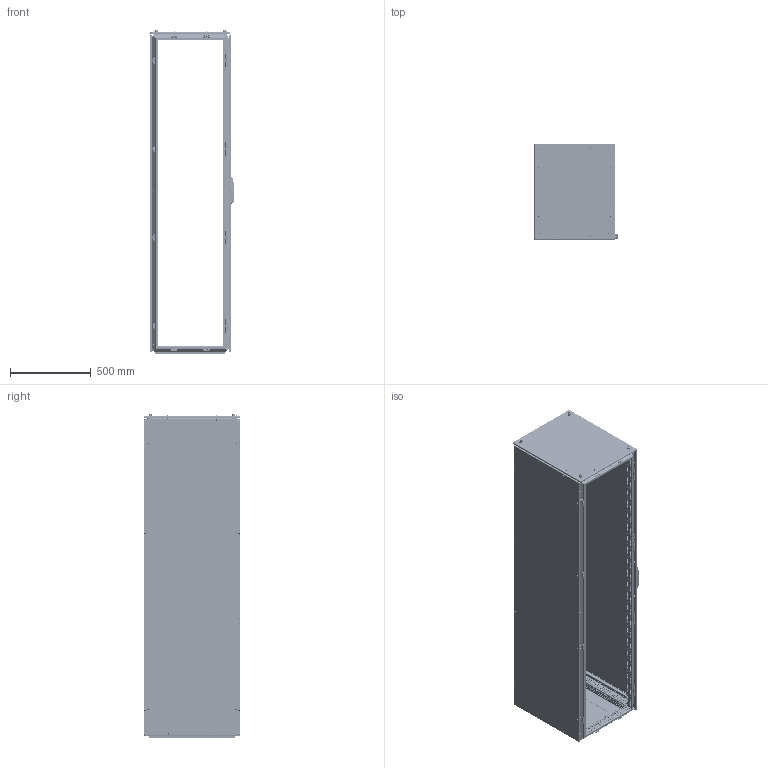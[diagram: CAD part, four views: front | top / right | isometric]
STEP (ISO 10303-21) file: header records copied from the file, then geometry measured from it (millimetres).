
FILE_DESCRIPTION(('STEP AP203'), '1');
FILE_NAME('ØÍÑ ÊÑ PRO II Êîðïóñ ÑÁ', '', ('UNSPECIFIED'), ('UNSPECIFIED'), 'C3D Converter', 'C3D Toolkit', '');
FILE_SCHEMA(('CONFIG_CONTROL_DESIGN'));
Length unit declared in the file: millimetre
Products named in the file (49): 3110.200.60.50; 3000; 3007.75; 3007.200; 3009.04; 3009.04.01; 3009.04.2; 3009.04.01.2; 3301; 3310; 3311; 3302; 3211; 3410; 3420; 3421; 3422.01; 3412; 3411; 2952; 3009.05; 3009.05.01; 3622.01; 3009.08; 3009.08.01
Assembly tree (292 placements, depth 5):
  3110.200.60.50
    3000
      3000
      (unnamed)  x88
      3007.75  x2
      (unnamed)  x8
      3007.200
      3009.04  x8
        3009.04.01
        (unnamed)
        (unnamed)
      3009.04.2  x14
        3009.04.01.2
        (unnamed)
        (unnamed)
    3301
      3310
        3311
        (unnamed)
      (unnamed)  x8
      (unnamed)  x8
      (unnamed)  x4
      (unnamed)  x4
    3302
      3211
      (unnamed)  x2
      (unnamed)  x12
    3410
      3420
        3421
        3422.01  x4
        (unnamed)  x14
        (unnamed)  x8
        (unnamed)  x2
      3412  x2
      3411  x2
      (unnamed)  x4
      (unnamed)  x14
      (unnamed)  x22
      (unnamed)  x8
      2952
        (unnamed)
          (unnamed)
          (unnamed)
          (unnamed)
          (unnamed)
          (unnamed)
      (unnamed)  x2
      3009.05  x4
        3009.05.01
        (unnamed)
        (unnamed)
      3622.01  x4
      (unnamed)  x4
      3009.08  x4
        3009.08.01
        (unnamed)
        (unnamed)
Bounding box: 524.04 x 597.07 x 2016 mm (x, y, z)
Volume: 8899821.9 mm3; surface area: 11319529.9 mm2
Topology: 391 solids, 391 shells, 21318 faces, 58268 edges, 38310 vertices
Faces by surface type: plane 14401, cylinder 5194, cone 1133, torus 360, bspline 203, sphere 27
Full cylindrical faces by diameter (mm): 0.5 x22, 4.134 x132, 4.3 x2, 4.5 x1936, 4.8 x8, 4.917 x22, 5 x176, 5.2 x1, 5.5 x8, 5.8 x44, 6 x51, 6.1 x4, 6.6 x22, 6.75 x22, 6.8 x176, 7 x96, 7.3 x22, 7.5 x74, 8 x108, 8.3 x16, 8.5 x9, 9.2 x74, 10 x31, 10.106 x8, 10.5 x4, 11.5 x10, 12 x30, 13 x1, 13.5 x4, 14 x8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
Entity records: 444819 total; most frequent: CARTESIAN_POINT 98345, ORIENTED_EDGE 66144, DIRECTION 62952, EDGE_CURVE 33072, LINE 26002, VECTOR 26002, VERTEX_POINT 23139, EDGE_LOOP 22147
